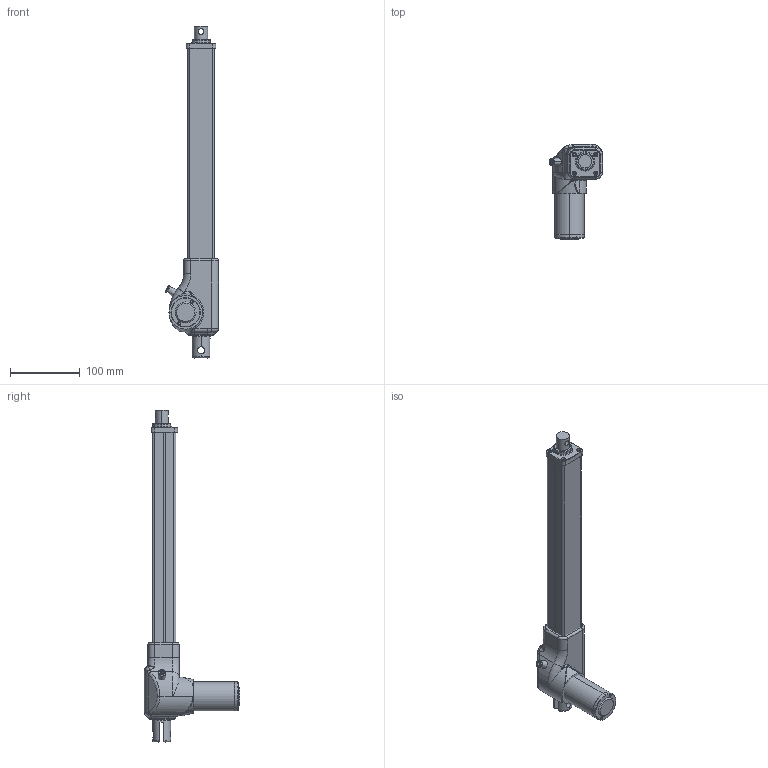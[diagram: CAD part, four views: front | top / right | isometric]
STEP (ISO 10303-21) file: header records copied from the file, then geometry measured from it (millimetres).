
FILE_DESCRIPTION((''),'2;1');
FILE_NAME('LAM2_ASM_ASM','2012-11-06T',('amyliao'),(''),'PRO/ENGINEER BY PARAMETRIC TECHNOLOGY CORPORATION, 2003210','PRO/ENGINEER BY PARAMETRIC TECHNOLOGY CORPORATION, 2003210','');
FILE_SCHEMA(('CONFIG_CONTROL_DESIGN'));
Length unit declared in the file: millimetre
Products named in the file (5): TB; C6F001A1; 01; C6E002A1; LAM2_ASM_ASM
Assembly tree (4 placements, depth 2):
  LAM2_ASM_ASM
    TB
    C6F001A1
    01
    C6E002A1
Bounding box: 76.03 x 136.5 x 476 mm (x, y, z)
Volume: 207045.4 mm3; surface area: 232942.8 mm2
Topology: 3 solids, 8 shells, 359 faces, 1038 edges, 686 vertices
Faces by surface type: cylinder 160, plane 99, torus 47, bspline 37, cone 14, sphere 2
Entity records: 15063 total; most frequent: CARTESIAN_POINT 5652, ORIENTED_EDGE 1970, DIRECTION 1868, EDGE_CURVE 1036, AXIS2_PLACEMENT_3D 708, VERTEX_POINT 686, VECTOR 452, LINE 452
